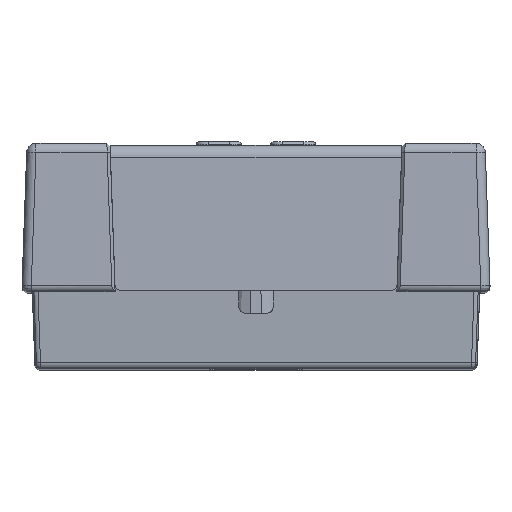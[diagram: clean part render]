
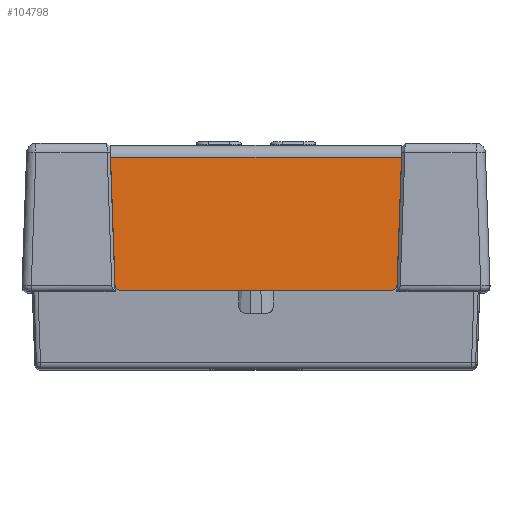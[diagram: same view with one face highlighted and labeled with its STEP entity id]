
A CAD part, top view. The second image highlights one B-rep face of the part: STEP entity #104798.
In plain terms, the highlighted planar face has unit normal (0, 0.035, 0.999) as drawn and (0, -0.999, 0.035) by its records, which use the part's own axes.
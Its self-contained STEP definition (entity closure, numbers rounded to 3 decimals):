
#7958 = CARTESIAN_POINT ( 'NONE',  ( 23.579, -62.92, 1.339 ) ) ;
#13027 = EDGE_CURVE ( 'NONE', #81455, #31125, #103360, .T. ) ;
#14032 = VECTOR ( 'NONE', #48358, 1000. ) ;
#16211 = EDGE_LOOP ( 'NONE', ( #73581, #111762, #117826, #111567, #98979, #66796 ) ) ;
#18905 = DIRECTION ( 'NONE',  ( 0., -0.999, 0.035 ) ) ;
#31125 = VERTEX_POINT ( 'NONE', #139203 ) ;
#34908 = DIRECTION ( 'NONE',  ( 1., 0., 0. ) ) ;
#35862 = VERTEX_POINT ( 'NONE', #61382 ) ;
#42701 = CARTESIAN_POINT ( 'NONE',  ( 0., -62.891, 2.162 ) ) ;
#43797 = CARTESIAN_POINT ( 'NONE',  ( -22.781, -63.717, -21.487 ) ) ;
#48358 = DIRECTION ( 'NONE',  ( 0.035, 0.035, 0.999 ) ) ;
#50941 = EDGE_CURVE ( 'NONE', #130508, #72358, #63653, .T. ) ;
#61382 = CARTESIAN_POINT ( 'NONE',  ( -21.782, -63.75, -22.451 ) ) ;
#63653 = LINE ( 'NONE', #111909, #78628 ) ;
#65792 = EDGE_CURVE ( 'NONE', #130508, #31125, #130925, .T. ) ;
#66796 = ORIENTED_EDGE ( 'NONE', *, *, #65792, .F. ) ;
#72358 = VERTEX_POINT ( 'NONE', #43797 ) ;
#73581 = ORIENTED_EDGE ( 'NONE', *, *, #50941, .T. ) ;
#73702 = EDGE_CURVE ( 'NONE', #147816, #81455, #134798, .T. ) ;
#75297 = AXIS2_PLACEMENT_3D ( 'NONE', #128724, #141225, #116702 ) ;
#77176 = DIRECTION ( 'NONE',  ( 1., 0., 0. ) ) ;
#78628 = VECTOR ( 'NONE', #145267, 1000. ) ;
#78678 = DIRECTION ( 'NONE',  ( 0., 0.999, -0.035 ) ) ;
#81455 = VERTEX_POINT ( 'NONE', #107175 ) ;
#90027 = VECTOR ( 'NONE', #34908, 1000. ) ;
#90551 = DIRECTION ( 'NONE',  ( 0., 0.035, 0.999 ) ) ;
#90728 = DIRECTION ( 'NONE',  ( 0., 0.035, 0.999 ) ) ;
#94966 = EDGE_CURVE ( 'NONE', #35862, #147816, #112422, .T. ) ;
#98979 = ORIENTED_EDGE ( 'NONE', *, *, #13027, .T. ) ;
#99209 = VECTOR ( 'NONE', #77176, 1000. ) ;
#101593 = CARTESIAN_POINT ( 'NONE',  ( -23.5, -62.999, -0.93 ) ) ;
#103360 = LINE ( 'NONE', #7958, #14032 ) ;
#104192 = CARTESIAN_POINT ( 'NONE',  ( -21.782, -63.715, -21.452 ) ) ;
#104798 = ADVANCED_FACE ( 'NONE', ( #106069 ), #113988, .F. ) ;
#106069 = FACE_OUTER_BOUND ( 'NONE', #16211, .T. ) ;
#107175 = CARTESIAN_POINT ( 'NONE',  ( 22.781, -63.717, -21.487 ) ) ;
#111567 = ORIENTED_EDGE ( 'NONE', *, *, #73702, .T. ) ;
#111762 = ORIENTED_EDGE ( 'NONE', *, *, #137053, .T. ) ;
#111909 = CARTESIAN_POINT ( 'NONE',  ( -23.579, -62.92, 1.339 ) ) ;
#112422 = LINE ( 'NONE', #118640, #90027 ) ;
#113988 = PLANE ( 'NONE',  #150778 ) ;
#114653 = AXIS2_PLACEMENT_3D ( 'NONE', #104192, #18905, #90728 ) ;
#116702 = DIRECTION ( 'NONE',  ( 0., 0.035, 0.999 ) ) ;
#117826 = ORIENTED_EDGE ( 'NONE', *, *, #94966, .T. ) ;
#118640 = CARTESIAN_POINT ( 'NONE',  ( 0., -63.75, -22.451 ) ) ;
#125917 = CIRCLE ( 'NONE', #114653, 1. ) ;
#128724 = CARTESIAN_POINT ( 'NONE',  ( 21.782, -63.715, -21.452 ) ) ;
#130508 = VERTEX_POINT ( 'NONE', #101593 ) ;
#130925 = LINE ( 'NONE', #148423, #99209 ) ;
#134798 = CIRCLE ( 'NONE', #75297, 1. ) ;
#137053 = EDGE_CURVE ( 'NONE', #72358, #35862, #125917, .T. ) ;
#139203 = CARTESIAN_POINT ( 'NONE',  ( 23.5, -62.999, -0.93 ) ) ;
#141225 = DIRECTION ( 'NONE',  ( 0., -0.999, 0.035 ) ) ;
#141772 = CARTESIAN_POINT ( 'NONE',  ( 21.782, -63.75, -22.451 ) ) ;
#145267 = DIRECTION ( 'NONE',  ( 0.035, -0.035, -0.999 ) ) ;
#147816 = VERTEX_POINT ( 'NONE', #141772 ) ;
#148423 = CARTESIAN_POINT ( 'NONE',  ( 23.5, -62.999, -0.93 ) ) ;
#150778 = AXIS2_PLACEMENT_3D ( 'NONE', #42701, #78678, #90551 ) ;
